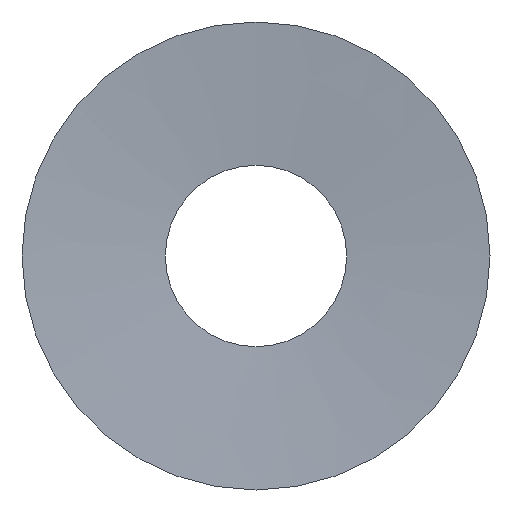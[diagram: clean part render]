
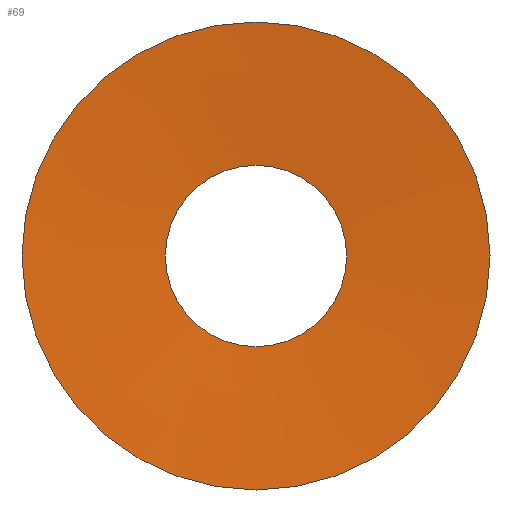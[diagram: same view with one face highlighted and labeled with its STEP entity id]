
A CAD part, front view. The second image highlights one B-rep face of the part: STEP entity #69.
In plain terms, the highlighted conical face has half-angle 85.134 degrees and reference radius 27.75 mm.
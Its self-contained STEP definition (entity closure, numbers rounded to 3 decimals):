
#19=FACE_OUTER_BOUND('',#23,.T.);
#23=EDGE_LOOP('',(#57,#58,#59,#60));
#27=LINE('',#137,#31);
#31=VECTOR('',#118,27.75);
#35=CIRCLE('',#98,15.5);
#36=CIRCLE('',#100,40.);
#39=VERTEX_POINT('',#132);
#40=VERTEX_POINT('',#136);
#45=EDGE_CURVE('',#39,#39,#35,.T.);
#46=EDGE_CURVE('',#39,#40,#27,.T.);
#47=EDGE_CURVE('',#40,#40,#36,.T.);
#57=ORIENTED_EDGE('',*,*,#45,.T.);
#58=ORIENTED_EDGE('',*,*,#46,.T.);
#59=ORIENTED_EDGE('',*,*,#47,.F.);
#60=ORIENTED_EDGE('',*,*,#46,.F.);
#66=CONICAL_SURFACE('',#99,27.75,1.486);
#69=ADVANCED_FACE('',(#19),#66,.F.);
#98=AXIS2_PLACEMENT_3D('',#134,#114,#115);
#99=AXIS2_PLACEMENT_3D('',#135,#116,#117);
#100=AXIS2_PLACEMENT_3D('',#138,#119,#120);
#114=DIRECTION('center_axis',(0.,1.,0.));
#115=DIRECTION('ref_axis',(1.,0.,0.));
#116=DIRECTION('center_axis',(0.,-1.,0.));
#117=DIRECTION('ref_axis',(0.,0.,-1.));
#118=DIRECTION('',(0.,-0.085,0.996));
#119=DIRECTION('center_axis',(0.,1.,0.));
#120=DIRECTION('ref_axis',(1.,0.,0.));
#132=CARTESIAN_POINT('',(0.,2.086,15.5));
#134=CARTESIAN_POINT('Origin',(0.,2.086,0.));
#135=CARTESIAN_POINT('Origin',(0.,1.043,0.));
#136=CARTESIAN_POINT('',(0.,0.,40.));
#137=CARTESIAN_POINT('',(0.,1.043,27.75));
#138=CARTESIAN_POINT('Origin',(0.,0.,0.));
